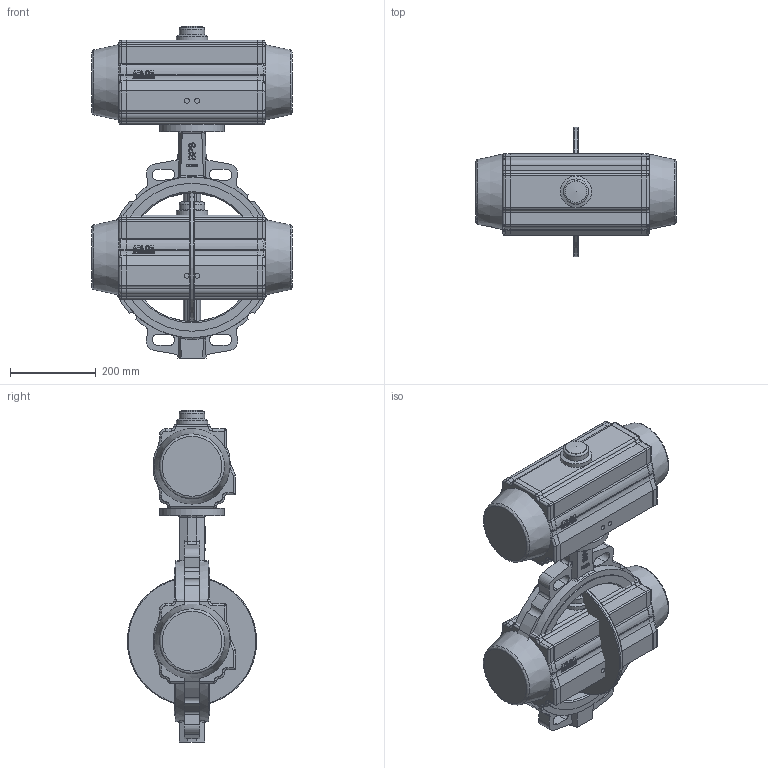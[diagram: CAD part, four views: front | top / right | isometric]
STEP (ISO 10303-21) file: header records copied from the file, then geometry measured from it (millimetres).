
FILE_DESCRIPTION( ( 'Unknown' ), '1' );
FILE_NAME( 'R:/ECCUA/ROOTSI BPS 3D vidinad/Poordklapid Wafer type/Butterfly valve(wafer) with pneumatic actuator BPS/STEP formaat/BPS 2303300P butterfly valve DN300.stp', 'Unknown', ( 'Unknown' ), ( 'Unknown' ), 'PSStep 10.1', 'Unknown', ' ' );
FILE_SCHEMA( ( 'AUTOMOTIVE_DESIGN { 1 0 10303 214 1 1 1 1 }' ) );
Length unit declared in the file: millimetre
Products named in the file (5): Assem1; Butterfly valve wafer type DN300 BPS; BPS 8300160DA-SR pneumatic actuator
Bounding box: 467 x 302 x 774.5 mm (x, y, z)
Volume: 38065062.6 mm3; surface area: 2038607.4 mm2
Topology: 8 solids, 8 shells, 1184 faces, 3056 edges, 1958 vertices
Faces by surface type: plane 426, cylinder 388, bspline 196, extrusion 84, torus 62, cone 26, sphere 2
Full cylindrical faces by diameter (mm): 8.376 x8, 10.106 x8, 11.445 x4, 13 x8, 50 x2, 59 x2, 73 x2, 150 x2, 300 x2, 345 x4, 375 x4
Entity records: 32886 total; most frequent: CARTESIAN_POINT 14888, ORIENTED_EDGE 2904, DIRECTION 2361, EDGE_CURVE 1452, VERTEX_POINT 961, AXIS2_PLACEMENT_3D 897, EDGE_LOOP 697, FACE_OUTER_BOUND 625
